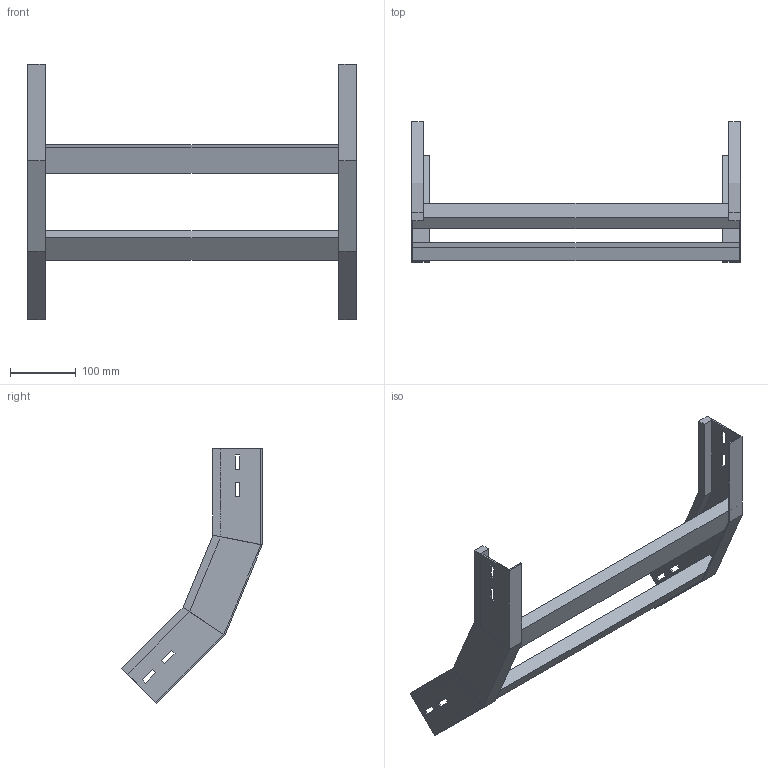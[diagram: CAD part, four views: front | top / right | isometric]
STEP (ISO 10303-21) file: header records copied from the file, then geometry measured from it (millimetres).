
FILE_DESCRIPTION (( 'STEP AP214' ), '1' );
FILE_NAME ('A2X31B3C500XX.step', '2025-03-20T10:09:03', ( '' ), ( '' ), 'SwSTEP 2.0', 'SolidWorks 2023', '' );
FILE_SCHEMA (( 'AUTOMOTIVE_DESIGN' ));
Length unit declared in the file: millimetre
Products named in the file (3): A2X31B3C500XX; LONGH.SALITA_45°_H75_R300; TRAVERSINO_500
Assembly tree (4 placements, depth 2):
  A2X31B3C500XX
    LONGH.SALITA_45°_H75_R300  x2
    TRAVERSINO_500  x2
Bounding box: 500 x 213.56 x 387.55 mm (x, y, z)
Volume: 1117315.1 mm3; surface area: 319050.7 mm2
Topology: 4 solids, 4 shells, 96 faces, 232 edges, 144 vertices
Faces by surface type: plane 96
Entity records: 1472 total; most frequent: CARTESIAN_POINT 243, ORIENTED_EDGE 232, DIRECTION 226, EDGE_CURVE 116, VECTOR 116, LINE 116, VERTEX_POINT 72, EDGE_LOOP 56
